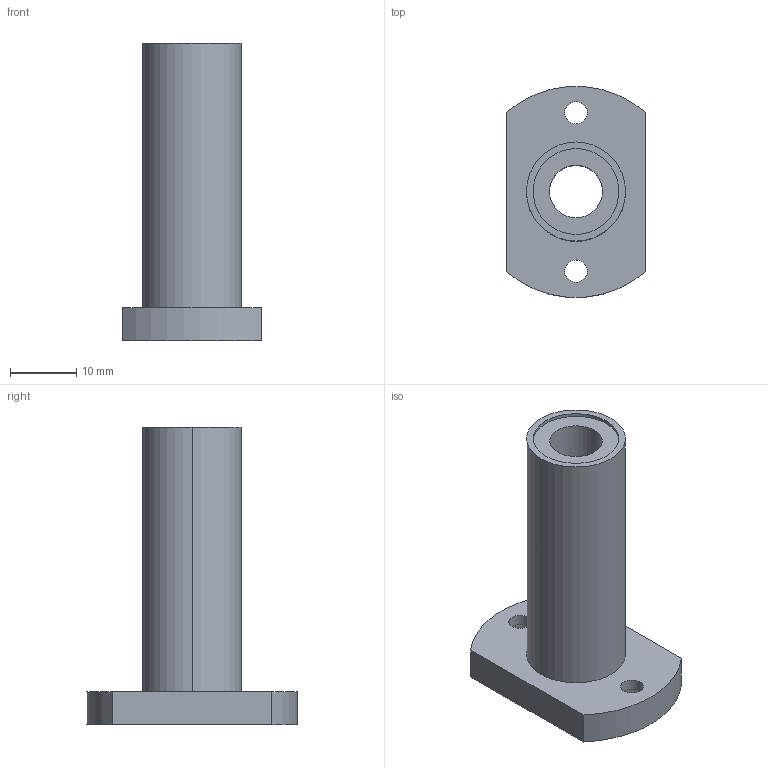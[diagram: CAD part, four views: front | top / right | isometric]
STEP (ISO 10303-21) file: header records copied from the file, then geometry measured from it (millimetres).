
FILE_DESCRIPTION((''),'2;1');
FILE_NAME('C:\Documents and Settings\ｿﾀﾀ蠑ｷ1\ｹﾙﾅﾁ ﾈｭｸ饅\ｺﾎﾇｰﾆﾄﾀﾏ\ﾁｦﾇｰ\LMH__LUU\LMH8LUU.stp','2005-06-15T10:41:55',('ｿﾀﾀ蠑ｷ1'),(''),'Autodesk Inventor 9','Autodesk Inventor 9','');
FILE_SCHEMA(('AUTOMOTIVE_DESIGN { 1 0 10303 214 1 1 1 1 }'));
Length unit declared in the file: millimetre
Products named in the file (1): LMH__
Bounding box: 21 x 31.9 x 45 mm (x, y, z)
Volume: 7511.3 mm3; surface area: 4787.4 mm2
Topology: 1 solids, 1 shells, 30 faces, 66 edges, 44 vertices
Faces by surface type: cylinder 12, bspline 10, plane 8
Entity records: 989 total; most frequent: CARTESIAN_POINT 283, DIRECTION 148, ORIENTED_EDGE 132, EDGE_CURVE 66, AXIS2_PLACEMENT_3D 61, VERTEX_POINT 44, EDGE_LOOP 42, CIRCLE 40
